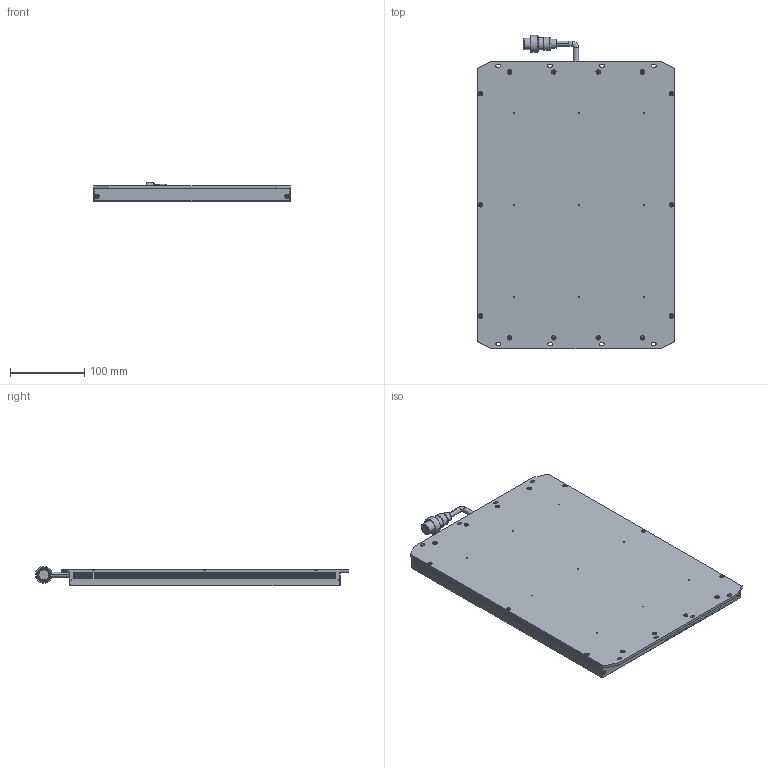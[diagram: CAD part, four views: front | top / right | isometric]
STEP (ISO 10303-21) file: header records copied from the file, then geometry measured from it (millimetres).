
FILE_DESCRIPTION((''),'2;1');
FILE_NAME('PRT0001','2022-11-04T18:20:43',('lizhoupeng'),(''),'CREO PARAMETRIC BY PTC INC, 2020044','CREO PARAMETRIC BY PTC INC, 2020044','');
FILE_SCHEMA(('CONFIG_CONTROL_DESIGN'));
Products named in the file (1): PRT0001
Bounding box: 265 x 422.75 x 25.75 mm (x, y, z)
Volume: 2035336.7 mm3; surface area: 268785.9 mm2
Topology: 2 solids, 68 shells, 2183 faces, 5165 edges, 3138 vertices
Faces by surface type: plane 1225, cylinder 527, cone 207, extrusion 146, torus 74, bspline 4
Entity records: 63487 total; most frequent: CARTESIAN_POINT 13811, ORIENTED_EDGE 10234, DIRECTION 9991, EDGE_CURVE 5117, VECTOR 3427, AXIS2_PLACEMENT_3D 3282, LINE 3281, VERTEX_POINT 3138
